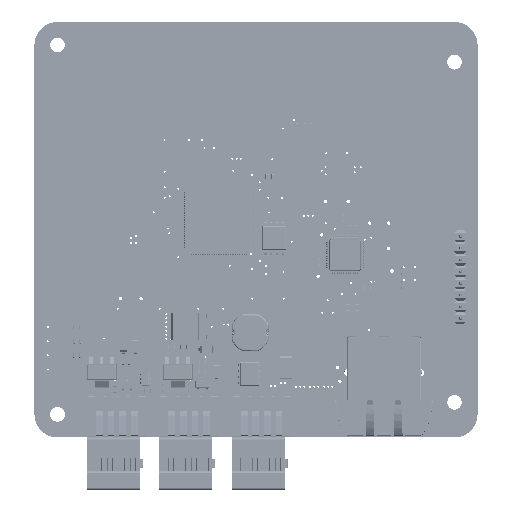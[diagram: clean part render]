
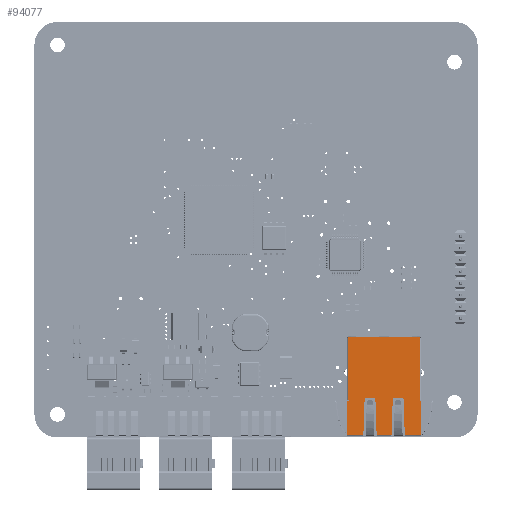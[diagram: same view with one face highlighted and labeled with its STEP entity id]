
A CAD part, top view. The second image highlights one B-rep face of the part: STEP entity #94077.
In plain terms, the highlighted planar face has unit normal (0, 0, 1) as drawn and (0, 1, 0) by its records, which use the part's own axes.
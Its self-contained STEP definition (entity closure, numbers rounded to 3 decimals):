
#5120=CIRCLE('',#102155,0.29);
#5121=CIRCLE('',#102161,0.29);
#5122=CIRCLE('',#102164,0.29);
#5123=CIRCLE('',#102170,0.29);
#5146=CIRCLE('',#102266,0.127);
#5147=CIRCLE('',#102267,0.127);
#10824=FACE_OUTER_BOUND('',#17342,.T.);
#17342=EDGE_LOOP('',(#71829,#71830,#71831,#71832,#71833,#71834,#71835,#71836,
#71837,#71838,#71839,#71840,#71841,#71842,#71843,#71844,#71845,#71846,#71847,
#71848,#71849,#71850,#71851,#71852));
#23863=LINE('',#146374,#33408);
#23866=LINE('',#146380,#33411);
#23940=LINE('',#146534,#33485);
#23953=LINE('',#146560,#33498);
#23955=LINE('',#146565,#33500);
#23959=LINE('',#146575,#33504);
#23960=LINE('',#146579,#33505);
#23964=LINE('',#146589,#33509);
#23968=LINE('',#146599,#33513);
#23969=LINE('',#146603,#33514);
#23984=LINE('',#146635,#33529);
#23985=LINE('',#146637,#33530);
#24017=LINE('',#146737,#33562);
#24090=LINE('',#147018,#33635);
#24091=LINE('',#147019,#33636);
#24092=LINE('',#147022,#33637);
#24093=LINE('',#147024,#33638);
#24094=LINE('',#147026,#33639);
#33408=VECTOR('',#118530,1000.);
#33411=VECTOR('',#118535,1000.);
#33485=VECTOR('',#118661,1000.);
#33498=VECTOR('',#118680,1000.);
#33500=VECTOR('',#118684,1000.);
#33504=VECTOR('',#118696,1000.);
#33505=VECTOR('',#118699,1000.);
#33509=VECTOR('',#118711,1000.);
#33513=VECTOR('',#118723,1000.);
#33514=VECTOR('',#118726,1000.);
#33529=VECTOR('',#118753,1000.);
#33530=VECTOR('',#118756,1000.);
#33562=VECTOR('',#118866,1000.);
#33635=VECTOR('',#119043,1000.);
#33636=VECTOR('',#119044,1000.);
#33637=VECTOR('',#119047,1000.);
#33638=VECTOR('',#119048,1000.);
#33639=VECTOR('',#119051,1000.);
#42538=VERTEX_POINT('',#144354);
#42607=VERTEX_POINT('',#144722);
#43121=VERTEX_POINT('',#146371);
#43122=VERTEX_POINT('',#146373);
#43123=VERTEX_POINT('',#146377);
#43124=VERTEX_POINT('',#146379);
#43177=VERTEX_POINT('',#146531);
#43178=VERTEX_POINT('',#146533);
#43189=VERTEX_POINT('',#146562);
#43190=VERTEX_POINT('',#146564);
#43191=VERTEX_POINT('',#146568);
#43192=VERTEX_POINT('',#146573);
#43193=VERTEX_POINT('',#146577);
#43194=VERTEX_POINT('',#146578);
#43195=VERTEX_POINT('',#146586);
#43196=VERTEX_POINT('',#146588);
#43197=VERTEX_POINT('',#146592);
#43198=VERTEX_POINT('',#146597);
#43199=VERTEX_POINT('',#146601);
#43200=VERTEX_POINT('',#146602);
#43210=VERTEX_POINT('',#146631);
#43211=VERTEX_POINT('',#146633);
#43259=VERTEX_POINT('',#147020);
#43260=VERTEX_POINT('',#147023);
#53418=EDGE_CURVE('',#43122,#43121,#23863,.T.);
#53421=EDGE_CURVE('',#43124,#43123,#23866,.T.);
#53499=EDGE_CURVE('',#43177,#43178,#23940,.T.);
#53513=EDGE_CURVE('',#42538,#43177,#23953,.T.);
#53515=EDGE_CURVE('',#43190,#43189,#23955,.T.);
#53518=EDGE_CURVE('',#43189,#43191,#5120,.T.);
#53521=EDGE_CURVE('',#43191,#43192,#23959,.T.);
#53522=EDGE_CURVE('',#43193,#43194,#23960,.T.);
#53526=EDGE_CURVE('',#43194,#43190,#5121,.T.);
#53528=EDGE_CURVE('',#43196,#43195,#23964,.T.);
#53531=EDGE_CURVE('',#43195,#43197,#5122,.T.);
#53534=EDGE_CURVE('',#43197,#43198,#23968,.T.);
#53535=EDGE_CURVE('',#43199,#43200,#23969,.T.);
#53539=EDGE_CURVE('',#43200,#43196,#5123,.T.);
#53553=EDGE_CURVE('',#43210,#43211,#23984,.T.);
#53554=EDGE_CURVE('',#43210,#42607,#23985,.T.);
#53598=EDGE_CURVE('',#43124,#43121,#24017,.T.);
#53686=EDGE_CURVE('',#43192,#43199,#24090,.T.);
#53687=EDGE_CURVE('',#43198,#42607,#24091,.T.);
#53688=EDGE_CURVE('',#43211,#43259,#5146,.T.);
#53689=EDGE_CURVE('',#43259,#43122,#24092,.T.);
#53690=EDGE_CURVE('',#43123,#43260,#24093,.T.);
#53691=EDGE_CURVE('',#43260,#43178,#5147,.T.);
#53692=EDGE_CURVE('',#42538,#43193,#24094,.T.);
#71829=ORIENTED_EDGE('',*,*,#53522,.T.);
#71830=ORIENTED_EDGE('',*,*,#53526,.T.);
#71831=ORIENTED_EDGE('',*,*,#53515,.T.);
#71832=ORIENTED_EDGE('',*,*,#53518,.T.);
#71833=ORIENTED_EDGE('',*,*,#53521,.T.);
#71834=ORIENTED_EDGE('',*,*,#53686,.T.);
#71835=ORIENTED_EDGE('',*,*,#53535,.T.);
#71836=ORIENTED_EDGE('',*,*,#53539,.T.);
#71837=ORIENTED_EDGE('',*,*,#53528,.T.);
#71838=ORIENTED_EDGE('',*,*,#53531,.T.);
#71839=ORIENTED_EDGE('',*,*,#53534,.T.);
#71840=ORIENTED_EDGE('',*,*,#53687,.T.);
#71841=ORIENTED_EDGE('',*,*,#53554,.F.);
#71842=ORIENTED_EDGE('',*,*,#53553,.T.);
#71843=ORIENTED_EDGE('',*,*,#53688,.T.);
#71844=ORIENTED_EDGE('',*,*,#53689,.T.);
#71845=ORIENTED_EDGE('',*,*,#53418,.T.);
#71846=ORIENTED_EDGE('',*,*,#53598,.F.);
#71847=ORIENTED_EDGE('',*,*,#53421,.T.);
#71848=ORIENTED_EDGE('',*,*,#53690,.T.);
#71849=ORIENTED_EDGE('',*,*,#53691,.T.);
#71850=ORIENTED_EDGE('',*,*,#53499,.F.);
#71851=ORIENTED_EDGE('',*,*,#53513,.F.);
#71852=ORIENTED_EDGE('',*,*,#53692,.T.);
#89486=PLANE('',#102265);
#94077=ADVANCED_FACE('',(#10824),#89486,.T.);
#102155=AXIS2_PLACEMENT_3D('',#146570,#118689,#118690);
#102161=AXIS2_PLACEMENT_3D('',#146584,#118706,#118707);
#102164=AXIS2_PLACEMENT_3D('',#146594,#118716,#118717);
#102170=AXIS2_PLACEMENT_3D('',#146608,#118733,#118734);
#102265=AXIS2_PLACEMENT_3D('',#147017,#119041,#119042);
#102266=AXIS2_PLACEMENT_3D('',#147021,#119045,#119046);
#102267=AXIS2_PLACEMENT_3D('',#147025,#119049,#119050);
#118530=DIRECTION('',(0.,0.,-1.));
#118535=DIRECTION('',(0.,0.,1.));
#118661=DIRECTION('',(1.,0.,0.));
#118680=DIRECTION('',(0.,0.,-1.));
#118684=DIRECTION('',(1.,0.,0.));
#118689=DIRECTION('center_axis',(0.,-1.,0.));
#118690=DIRECTION('ref_axis',(0.,0.,1.));
#118696=DIRECTION('',(0.035,0.,0.999));
#118699=DIRECTION('',(0.035,0.,-0.999));
#118706=DIRECTION('center_axis',(0.,-1.,0.));
#118707=DIRECTION('ref_axis',(0.,0.,1.));
#118711=DIRECTION('',(1.,0.,0.));
#118716=DIRECTION('center_axis',(0.,-1.,0.));
#118717=DIRECTION('ref_axis',(0.,0.,1.));
#118723=DIRECTION('',(0.035,0.,0.999));
#118726=DIRECTION('',(0.035,0.,-0.999));
#118733=DIRECTION('center_axis',(0.,-1.,0.));
#118734=DIRECTION('ref_axis',(0.,0.,1.));
#118753=DIRECTION('',(-1.,0.,0.));
#118756=DIRECTION('',(0.,0.,1.));
#118866=DIRECTION('',(1.,0.,0.));
#119041=DIRECTION('center_axis',(0.,1.,0.));
#119042=DIRECTION('ref_axis',(0.,0.,1.));
#119043=DIRECTION('',(1.,0.,0.));
#119044=DIRECTION('',(1.,0.,0.));
#119045=DIRECTION('center_axis',(0.,-1.,0.));
#119046=DIRECTION('ref_axis',(0.,0.,1.));
#119047=DIRECTION('',(0.,0.,-1.));
#119048=DIRECTION('',(0.,0.,1.));
#119049=DIRECTION('center_axis',(0.,-1.,0.));
#119050=DIRECTION('ref_axis',(0.,0.,1.));
#119051=DIRECTION('',(1.,0.,0.));
#144354=CARTESIAN_POINT('',(-8.014,6.744,0.051));
#144722=CARTESIAN_POINT('',(8.014,6.744,0.051));
#146371=CARTESIAN_POINT('',(7.81,6.744,-21.082));
#146373=CARTESIAN_POINT('',(7.811,6.744,-21.031));
#146374=CARTESIAN_POINT('',(7.811,6.744,-21.082));
#146377=CARTESIAN_POINT('',(-7.811,6.744,-21.031));
#146379=CARTESIAN_POINT('',(-7.81,6.744,-21.082));
#146380=CARTESIAN_POINT('',(-7.811,6.744,-21.031));
#146531=CARTESIAN_POINT('',(-8.014,6.744,-7.315));
#146533=CARTESIAN_POINT('',(-7.811,6.744,-7.315));
#146534=CARTESIAN_POINT('',(-7.811,6.744,-7.315));
#146560=CARTESIAN_POINT('',(-8.014,6.744,-7.315));
#146562=CARTESIAN_POINT('',(-2.169,6.744,-7.951));
#146564=CARTESIAN_POINT('',(-3.927,6.744,-7.951));
#146565=CARTESIAN_POINT('',(-2.169,6.744,-7.951));
#146568=CARTESIAN_POINT('',(-1.88,6.744,-7.672));
#146570=CARTESIAN_POINT('Origin',(-2.169,6.744,-7.662));
#146573=CARTESIAN_POINT('',(-1.607,6.744,0.051));
#146575=CARTESIAN_POINT('',(-1.598,6.744,0.302));
#146577=CARTESIAN_POINT('',(-4.489,6.744,0.051));
#146578=CARTESIAN_POINT('',(-4.216,6.744,-7.672));
#146579=CARTESIAN_POINT('',(-4.216,6.744,-7.672));
#146584=CARTESIAN_POINT('Origin',(-3.927,6.744,-7.662));
#146586=CARTESIAN_POINT('',(3.927,6.744,-7.951));
#146588=CARTESIAN_POINT('',(2.169,6.744,-7.951));
#146589=CARTESIAN_POINT('',(3.927,6.744,-7.951));
#146592=CARTESIAN_POINT('',(4.216,6.744,-7.672));
#146594=CARTESIAN_POINT('Origin',(3.927,6.744,-7.662));
#146597=CARTESIAN_POINT('',(4.489,6.744,0.051));
#146599=CARTESIAN_POINT('',(4.498,6.744,0.302));
#146601=CARTESIAN_POINT('',(1.607,6.744,0.051));
#146602=CARTESIAN_POINT('',(1.88,6.744,-7.672));
#146603=CARTESIAN_POINT('',(1.88,6.744,-7.672));
#146608=CARTESIAN_POINT('Origin',(2.169,6.744,-7.662));
#146631=CARTESIAN_POINT('',(8.014,6.744,-7.315));
#146633=CARTESIAN_POINT('',(7.811,6.744,-7.315));
#146635=CARTESIAN_POINT('',(7.811,6.744,-7.315));
#146637=CARTESIAN_POINT('',(8.014,6.744,-7.315));
#146737=CARTESIAN_POINT('',(-8.022,6.744,-21.082));
#147017=CARTESIAN_POINT('Origin',(-8.014,6.744,-21.082));
#147018=CARTESIAN_POINT('',(-8.014,6.744,0.051));
#147019=CARTESIAN_POINT('',(-8.014,6.744,0.051));
#147020=CARTESIAN_POINT('',(7.811,6.744,-7.569));
#147021=CARTESIAN_POINT('Origin',(7.811,6.744,-7.442));
#147022=CARTESIAN_POINT('',(7.811,6.744,-21.082));
#147023=CARTESIAN_POINT('',(-7.811,6.744,-7.569));
#147024=CARTESIAN_POINT('',(-7.811,6.744,-21.082));
#147025=CARTESIAN_POINT('Origin',(-7.811,6.744,-7.442));
#147026=CARTESIAN_POINT('',(-8.014,6.744,0.051));
